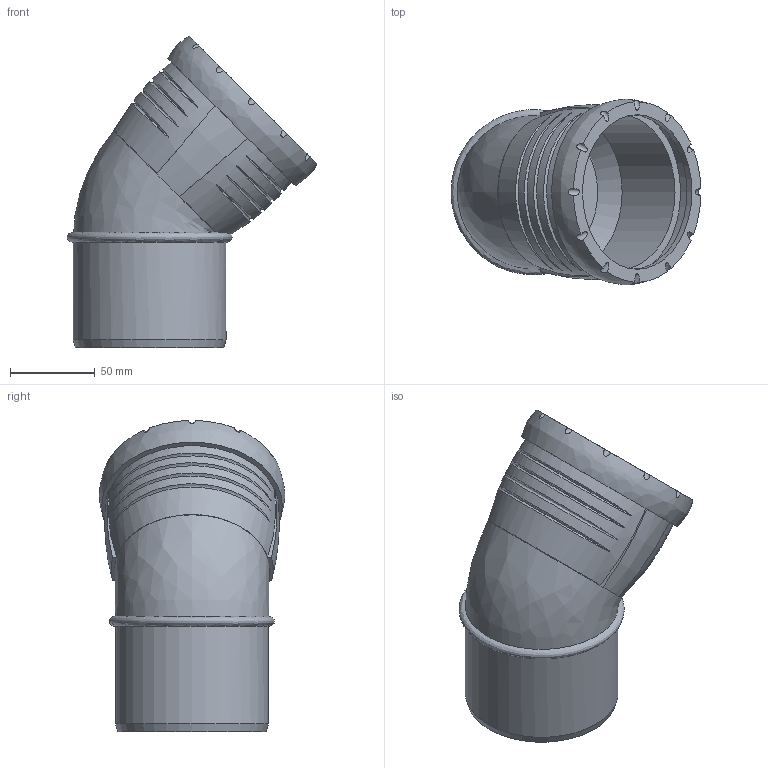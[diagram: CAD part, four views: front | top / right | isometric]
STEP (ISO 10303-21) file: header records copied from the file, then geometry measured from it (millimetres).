
FILE_DESCRIPTION(/* description */ (''),/* implementation_level */ '2;1');
FILE_NAME(/* name */ 'H:\Geberit-Teile\Export\Bogen_TEST\stp\393422.stp',/* time_stamp */ '2017-02-14T10:09:56+01:00',/* author */ ('seihe2'),/* organization */ (''),/* preprocessor_version */ 'ST-DEVELOPER v15.2',/* originating_system */ 'Autodesk Inventor 2014',/* authorisation */ '');
FILE_SCHEMA (('AUTOMOTIVE_DESIGN { 1 0 10303 214 3 1 1 }'));
Length unit declared in the file: millimetre
Products named in the file (1): 393422
Bounding box: 147.42 x 109.47 x 183.56 mm (x, y, z)
Volume: 423524.9 mm3; surface area: 112831.6 mm2
Topology: 2 solids, 2 shells, 54 faces, 133 edges, 94 vertices
Faces by surface type: bspline 25, cylinder 19, plane 8, cone 2
Full cylindrical faces by diameter (mm): 81.6 x1, 90.2 x1, 90.9 x1, 91.2 x1, 100.2 x1
Entity records: 4089 total; most frequent: CARTESIAN_POINT 2905, ORIENTED_EDGE 252, DIRECTION 172, EDGE_CURVE 125, VERTEX_POINT 93, AXIS2_PLACEMENT_3D 86, EDGE_LOOP 75, B_SPLINE_CURVE_WITH_KNOTS 68
